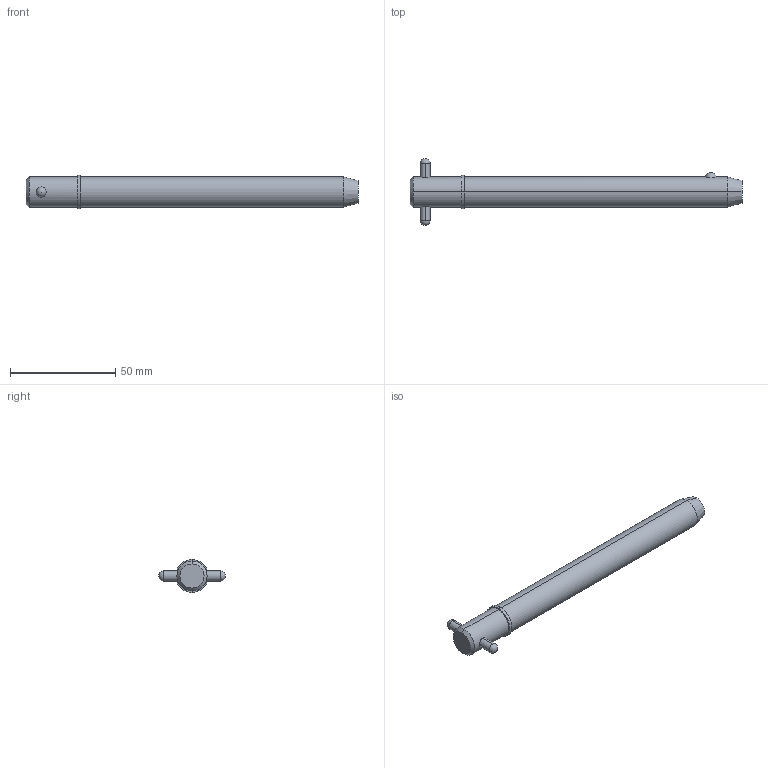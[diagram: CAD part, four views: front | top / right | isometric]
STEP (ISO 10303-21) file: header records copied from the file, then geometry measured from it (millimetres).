
FILE_DESCRIPTION (( 'STEP AP203' ), '1' );
FILE_NAME ('33018.W5645.step', '2024-11-19T17:17:16', ( '' ), ( '' ), 'SwSTEP 2.0', 'SolidWorks 2019', '' );
FILE_SCHEMA (( 'CONFIG_CONTROL_DESIGN' ));
Length unit declared in the file: millimetre
Products named in the file (3): 33018.W5645; Part1_33018.W5645; Part2_33018.W5645
Assembly tree (2 placements, depth 2):
  33018.W5645
    Part1_33018.W5645
    Part2_33018.W5645
Bounding box: 157.45 x 31.75 x 15.72 mm (x, y, z)
Volume: 25327.8 mm3; surface area: 7986.8 mm2
Topology: 2 solids, 2 shells, 22 faces, 47 edges, 30 vertices
Faces by surface type: cylinder 10, sphere 4, cone 4, plane 4
Entity records: 1033 total; most frequent: CARTESIAN_POINT 276, DIRECTION 110, ORIENTED_EDGE 82, AXIS2_PLACEMENT_3D 48, EDGE_CURVE 41, EDGE_LOOP 27, VERTEX_POINT 26, PERSON_AND_ORGANIZATION 26
